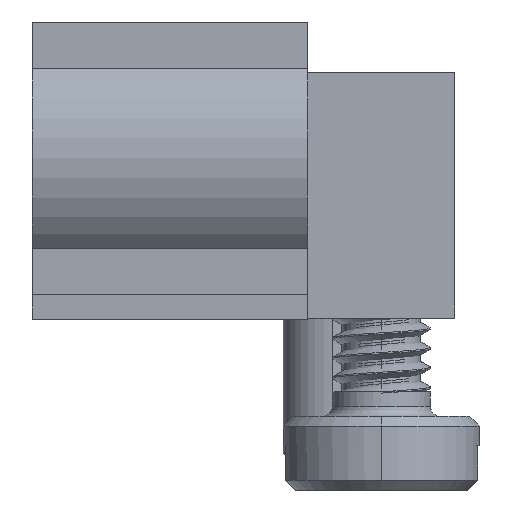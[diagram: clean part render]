
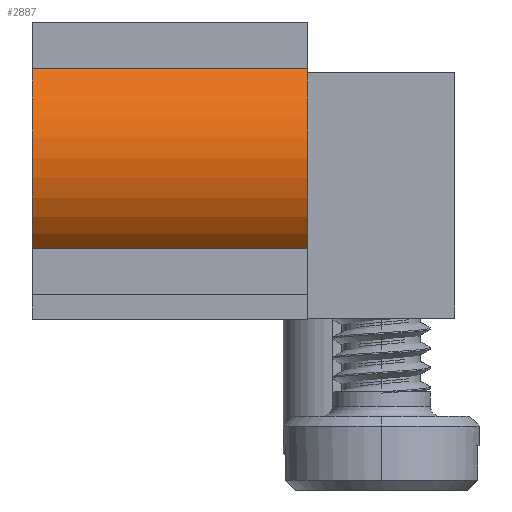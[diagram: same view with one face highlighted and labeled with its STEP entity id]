
A CAD part, left-side view. The second image highlights one B-rep face of the part: STEP entity #2887.
In plain terms, the highlighted cylindrical face has radius 2.5 mm (diameter 5 mm), a partial arc.
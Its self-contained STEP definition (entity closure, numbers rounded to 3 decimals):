
#167=CARTESIAN_POINT('',(-10.5,3.4,0.));
#168=DIRECTION('',(0.,-1.,0.));
#169=DIRECTION('',(-0.68,0.,0.733));
#170=AXIS2_PLACEMENT_3D('',#167,#168,#169);
#511=CARTESIAN_POINT('',(-10.5,-2.2,0.));
#512=DIRECTION('',(0.,-1.,0.));
#513=DIRECTION('',(-0.68,0.,0.733));
#514=AXIS2_PLACEMENT_3D('',#511,#512,#513);
#1229=DIRECTION('',(0.,-1.,0.));
#1230=VECTOR('',#1229,5.6);
#1231=CARTESIAN_POINT('',(-12.2,3.4,-1.833));
#1232=LINE('',#1231,#1230);
#1236=DIRECTION('',(0.,-1.,0.));
#1237=VECTOR('',#1236,5.6);
#1238=CARTESIAN_POINT('',(-12.2,3.4,1.833));
#1239=LINE('',#1238,#1237);
#1726=CARTESIAN_POINT('',(-12.2,3.4,1.833));
#1727=VERTEX_POINT('',#1726);
#1728=CARTESIAN_POINT('',(-12.2,3.4,-1.833));
#1729=VERTEX_POINT('',#1728);
#1741=CARTESIAN_POINT('',(-12.2,-2.2,1.833));
#1743=VERTEX_POINT('',#1741);
#1744=CARTESIAN_POINT('',(-12.2,-2.2,-1.833));
#1745=VERTEX_POINT('',#1744);
#2875=CARTESIAN_POINT('',(-10.5,3.4,0.));
#2876=DIRECTION('',(0.,-1.,0.));
#2877=DIRECTION('',(-1.,0.,0.));
#2878=AXIS2_PLACEMENT_3D('',#2875,#2876,#2877);
#2879=CYLINDRICAL_SURFACE('',#2878,2.5);
#2880=ORIENTED_EDGE('',*,*,#2005,.F.);
#2882=ORIENTED_EDGE('',*,*,#2881,.T.);
#2883=ORIENTED_EDGE('',*,*,#2255,.T.);
#2884=ORIENTED_EDGE('',*,*,#2868,.F.);
#2885=EDGE_LOOP('',(#2880,#2882,#2883,#2884));
#2886=FACE_OUTER_BOUND('',#2885,.F.);
#2887=ADVANCED_FACE('',(#2886),#2879,.T.);
#171=CIRCLE('',#170,2.5);
#515=CIRCLE('',#514,2.5);
#2005=EDGE_CURVE('',#1727,#1729,#171,.T.);
#2255=EDGE_CURVE('',#1743,#1745,#515,.T.);
#2868=EDGE_CURVE('',#1729,#1745,#1232,.T.);
#2881=EDGE_CURVE('',#1727,#1743,#1239,.T.);
